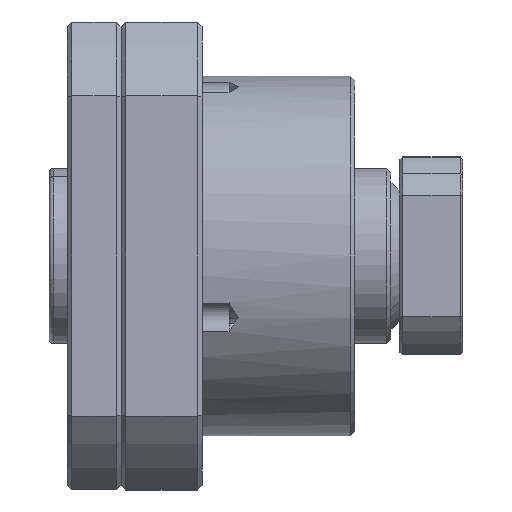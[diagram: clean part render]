
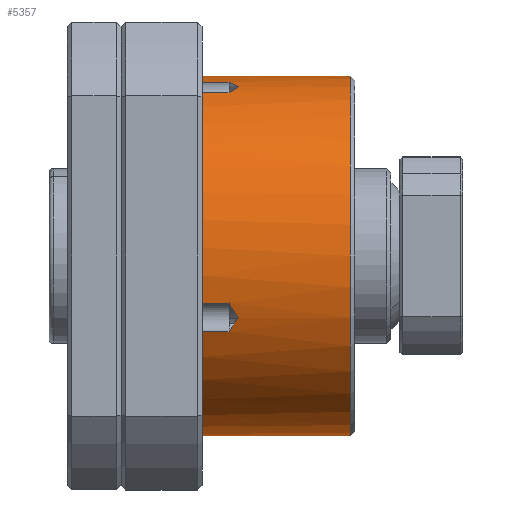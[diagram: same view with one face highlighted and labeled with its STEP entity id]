
A CAD part, front view. The second image highlights one B-rep face of the part: STEP entity #5357.
In plain terms, the highlighted cylindrical face has radius 20 mm (diameter 40 mm), a partial arc.
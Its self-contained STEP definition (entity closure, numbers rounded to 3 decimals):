
#18 = EDGE_CURVE ( 'NONE', #5743, #1800, #5177, .T. ) ;
#29 = CARTESIAN_POINT ( 'NONE',  ( 13.006, -6.84, 18.794 ) ) ;
#136 = CIRCLE ( 'NONE', #2538, 20. ) ;
#164 = ORIENTED_EDGE ( 'NONE', *, *, #468, .T. ) ;
#343 = VECTOR ( 'NONE', #3969, 1000. ) ;
#417 = VERTEX_POINT ( 'NONE', #727 ) ;
#424 = ORIENTED_EDGE ( 'NONE', *, *, #2173, .T. ) ;
#468 = EDGE_CURVE ( 'NONE', #6847, #6006, #2711, .T. ) ;
#521 = AXIS2_PLACEMENT_3D ( 'NONE', #4308, #4267, #4259 ) ;
#608 = LINE ( 'NONE', #6129, #4813 ) ;
#718 = CIRCLE ( 'NONE', #2598, 20. ) ;
#727 = CARTESIAN_POINT ( 'NONE',  ( 9., -5.244, 19.3 ) ) ;
#740 = VERTEX_POINT ( 'NONE', #6436 ) ;
#884 = CARTESIAN_POINT ( 'NONE',  ( 9., 0., 20. ) ) ;
#951 = CARTESIAN_POINT ( 'NONE',  ( 12., -18.156, -8.389 ) ) ;
#962 = VECTOR ( 'NONE', #4207, 1000. ) ;
#968 = AXIS2_PLACEMENT_3D ( 'NONE', #5530, #5287, #5312 ) ;
#998 = EDGE_CURVE ( 'NONE', #5817, #2954, #2705, .T. ) ;
#1022 = EDGE_CURVE ( 'NONE', #417, #6359, #5515, .T. ) ;
#1134 = ORIENTED_EDGE ( 'NONE', *, *, #3863, .T. ) ;
#1386 = CARTESIAN_POINT ( 'NONE',  ( 12., -18.156, -8.389 ) ) ;
#1399 = CARTESIAN_POINT ( 'NONE',  ( 12.335, -18.39, -7.882 ) ) ;
#1416 = CARTESIAN_POINT ( 'NONE',  ( 13.006, -18.794, -6.84 ) ) ;
#1425 = CARTESIAN_POINT ( 'NONE',  ( 12.671, -18.603, -7.365 ) ) ;
#1441 = CARTESIAN_POINT ( 'NONE',  ( 6., -18.156, -8.389 ) ) ;
#1508 = DIRECTION ( 'NONE',  ( -1., 0., 0. ) ) ;
#1528 = CARTESIAN_POINT ( 'NONE',  ( 9., 0., -20. ) ) ;
#1613 = EDGE_CURVE ( 'NONE', #5743, #4121, #608, .T. ) ;
#1800 = VERTEX_POINT ( 'NONE', #5425 ) ;
#1854 = DIRECTION ( 'NONE',  ( 0., 0., 1. ) ) ;
#1865 = DIRECTION ( 'NONE',  ( -1., 0., 0. ) ) ;
#1871 = ORIENTED_EDGE ( 'NONE', *, *, #5446, .F. ) ;
#1874 = LINE ( 'NONE', #3994, #343 ) ;
#1877 = CARTESIAN_POINT ( 'NONE',  ( 9., 0., 0. ) ) ;
#2036 = DIRECTION ( 'NONE',  ( -1., 0., 0. ) ) ;
#2074 = DIRECTION ( 'NONE',  ( 0., 0., 1. ) ) ;
#2126 = CARTESIAN_POINT ( 'NONE',  ( 25.5, 0., 0. ) ) ;
#2173 = EDGE_CURVE ( 'NONE', #6359, #7285, #6600, .T. ) ;
#2230 = EDGE_CURVE ( 'NONE', #7272, #3643, #1874, .T. ) ;
#2476 = EDGE_CURVE ( 'NONE', #4121, #4568, #7218, .T. ) ;
#2538 = AXIS2_PLACEMENT_3D ( 'NONE', #3537, #3549, #3555 ) ;
#2592 = VECTOR ( 'NONE', #5463, 1000. ) ;
#2598 = AXIS2_PLACEMENT_3D ( 'NONE', #1877, #1865, #1854 ) ;
#2687 = CARTESIAN_POINT ( 'NONE',  ( 13.006, -18.794, -6.84 ) ) ;
#2701 = CARTESIAN_POINT ( 'NONE',  ( 12., -19.3, -5.244 ) ) ;
#2705 = LINE ( 'NONE', #4016, #962 ) ;
#2708 = CARTESIAN_POINT ( 'NONE',  ( 12.335, -19.154, -5.782 ) ) ;
#2711 = LINE ( 'NONE', #1441, #7004 ) ;
#2780 = CARTESIAN_POINT ( 'NONE',  ( 12.671, -18.985, -6.316 ) ) ;
#2813 = EDGE_CURVE ( 'NONE', #4568, #6847, #3217, .T. ) ;
#2954 = VERTEX_POINT ( 'NONE', #884 ) ;
#2955 = LINE ( 'NONE', #5490, #2592 ) ;
#3217 = B_SPLINE_CURVE_WITH_KNOTS ( 'NONE', 3,
 ( #1416, #1425, #1399, #1386 ),
 .UNSPECIFIED., .F., .F.,
 ( 4, 4 ),
 ( 0., 0.002 ),
 .UNSPECIFIED. ) ;
#3223 = CARTESIAN_POINT ( 'NONE',  ( 12., -5.244, 19.3 ) ) ;
#3537 = CARTESIAN_POINT ( 'NONE',  ( 9., 0., 0. ) ) ;
#3549 = DIRECTION ( 'NONE',  ( -1., 0., 0. ) ) ;
#3555 = DIRECTION ( 'NONE',  ( 0., 0., 1. ) ) ;
#3571 = CYLINDRICAL_SURFACE ( 'NONE', #968, 20. ) ;
#3643 = VERTEX_POINT ( 'NONE', #1528 ) ;
#3691 = AXIS2_PLACEMENT_3D ( 'NONE', #2126, #2036, #2074 ) ;
#3863 = EDGE_CURVE ( 'NONE', #7285, #740, #4022, .T. ) ;
#3939 = CARTESIAN_POINT ( 'NONE',  ( 12., -8.389, 18.156 ) ) ;
#3947 = DIRECTION ( 'NONE',  ( 1., 0., 0. ) ) ;
#3956 = CARTESIAN_POINT ( 'NONE',  ( 12.335, -7.882, 18.39 ) ) ;
#3969 = DIRECTION ( 'NONE',  ( -1., 0., 0. ) ) ;
#3976 = CARTESIAN_POINT ( 'NONE',  ( 6., -5.244, 19.3 ) ) ;
#3994 = CARTESIAN_POINT ( 'NONE',  ( -94.469, 0., -20. ) ) ;
#4016 = CARTESIAN_POINT ( 'NONE',  ( -94.469, 0., 20. ) ) ;
#4022 = B_SPLINE_CURVE_WITH_KNOTS ( 'NONE', 3,
 ( #29, #4039, #3956, #3939 ),
 .UNSPECIFIED., .F., .F.,
 ( 4, 4 ),
 ( 0., 0.002 ),
 .UNSPECIFIED. ) ;
#4039 = CARTESIAN_POINT ( 'NONE',  ( 12.671, -7.365, 18.603 ) ) ;
#4121 = VERTEX_POINT ( 'NONE', #6401 ) ;
#4122 = CARTESIAN_POINT ( 'NONE',  ( 13.006, -6.84, 18.794 ) ) ;
#4132 = CARTESIAN_POINT ( 'NONE',  ( 12., -5.244, 19.3 ) ) ;
#4174 = CARTESIAN_POINT ( 'NONE',  ( 12.671, -6.316, 18.985 ) ) ;
#4181 = CIRCLE ( 'NONE', #3691, 20. ) ;
#4207 = DIRECTION ( 'NONE',  ( -1., 0., 0. ) ) ;
#4215 = EDGE_CURVE ( 'NONE', #740, #1800, #2955, .T. ) ;
#4233 = CARTESIAN_POINT ( 'NONE',  ( 12.335, -5.782, 19.154 ) ) ;
#4248 = EDGE_LOOP ( 'NONE', ( #5663, #7309, #5586, #5768, #4641, #424, #1134, #6032, #6285, #6661, #5498, #5849, #164, #1871 ) ) ;
#4259 = DIRECTION ( 'NONE',  ( 0., 0., 1. ) ) ;
#4267 = DIRECTION ( 'NONE',  ( -1., 0., 0. ) ) ;
#4308 = CARTESIAN_POINT ( 'NONE',  ( 9., 0., 0. ) ) ;
#4426 = CARTESIAN_POINT ( 'NONE',  ( 13.006, -18.794, -6.84 ) ) ;
#4568 = VERTEX_POINT ( 'NONE', #4426 ) ;
#4641 = ORIENTED_EDGE ( 'NONE', *, *, #1022, .T. ) ;
#4813 = VECTOR ( 'NONE', #6059, 1000. ) ;
#5045 = CARTESIAN_POINT ( 'NONE',  ( 9., -18.156, -8.389 ) ) ;
#5177 = CIRCLE ( 'NONE', #521, 20. ) ;
#5287 = DIRECTION ( 'NONE',  ( -1., 0., 0. ) ) ;
#5312 = DIRECTION ( 'NONE',  ( 0., 0., 1. ) ) ;
#5341 = VECTOR ( 'NONE', #3947, 1000. ) ;
#5357 = ADVANCED_FACE ( 'NONE', ( #6724 ), #3571, .T. ) ;
#5425 = CARTESIAN_POINT ( 'NONE',  ( 9., -8.389, 18.156 ) ) ;
#5446 = EDGE_CURVE ( 'NONE', #3643, #6006, #136, .T. ) ;
#5463 = DIRECTION ( 'NONE',  ( -1., 0., 0. ) ) ;
#5490 = CARTESIAN_POINT ( 'NONE',  ( 6., -8.389, 18.156 ) ) ;
#5498 = ORIENTED_EDGE ( 'NONE', *, *, #2476, .T. ) ;
#5515 = LINE ( 'NONE', #3976, #5341 ) ;
#5530 = CARTESIAN_POINT ( 'NONE',  ( -94.469, 0., 0. ) ) ;
#5572 = EDGE_CURVE ( 'NONE', #7272, #5817, #4181, .T. ) ;
#5586 = ORIENTED_EDGE ( 'NONE', *, *, #998, .T. ) ;
#5663 = ORIENTED_EDGE ( 'NONE', *, *, #2230, .F. ) ;
#5743 = VERTEX_POINT ( 'NONE', #7210 ) ;
#5768 = ORIENTED_EDGE ( 'NONE', *, *, #6716, .F. ) ;
#5817 = VERTEX_POINT ( 'NONE', #6790 ) ;
#5849 = ORIENTED_EDGE ( 'NONE', *, *, #2813, .T. ) ;
#6006 = VERTEX_POINT ( 'NONE', #5045 ) ;
#6032 = ORIENTED_EDGE ( 'NONE', *, *, #4215, .T. ) ;
#6059 = DIRECTION ( 'NONE',  ( 1., 0., 0. ) ) ;
#6129 = CARTESIAN_POINT ( 'NONE',  ( 6., -19.3, -5.244 ) ) ;
#6285 = ORIENTED_EDGE ( 'NONE', *, *, #18, .F. ) ;
#6359 = VERTEX_POINT ( 'NONE', #3223 ) ;
#6401 = CARTESIAN_POINT ( 'NONE',  ( 12., -19.3, -5.244 ) ) ;
#6436 = CARTESIAN_POINT ( 'NONE',  ( 12., -8.389, 18.156 ) ) ;
#6600 = B_SPLINE_CURVE_WITH_KNOTS ( 'NONE', 3,
 ( #4132, #4233, #4174, #4122 ),
 .UNSPECIFIED., .F., .F.,
 ( 4, 4 ),
 ( 0.002, 0.004 ),
 .UNSPECIFIED. ) ;
#6661 = ORIENTED_EDGE ( 'NONE', *, *, #1613, .T. ) ;
#6680 = CARTESIAN_POINT ( 'NONE',  ( 13.006, -6.84, 18.794 ) ) ;
#6716 = EDGE_CURVE ( 'NONE', #417, #2954, #718, .T. ) ;
#6724 = FACE_OUTER_BOUND ( 'NONE', #4248, .T. ) ;
#6790 = CARTESIAN_POINT ( 'NONE',  ( 25.5, 0., 20. ) ) ;
#6847 = VERTEX_POINT ( 'NONE', #951 ) ;
#6923 = CARTESIAN_POINT ( 'NONE',  ( 25.5, 0., -20. ) ) ;
#7004 = VECTOR ( 'NONE', #1508, 1000. ) ;
#7210 = CARTESIAN_POINT ( 'NONE',  ( 9., -19.3, -5.244 ) ) ;
#7218 = B_SPLINE_CURVE_WITH_KNOTS ( 'NONE', 3,
 ( #2701, #2708, #2780, #2687 ),
 .UNSPECIFIED., .F., .F.,
 ( 4, 4 ),
 ( 0.002, 0.004 ),
 .UNSPECIFIED. ) ;
#7272 = VERTEX_POINT ( 'NONE', #6923 ) ;
#7285 = VERTEX_POINT ( 'NONE', #6680 ) ;
#7309 = ORIENTED_EDGE ( 'NONE', *, *, #5572, .T. ) ;
